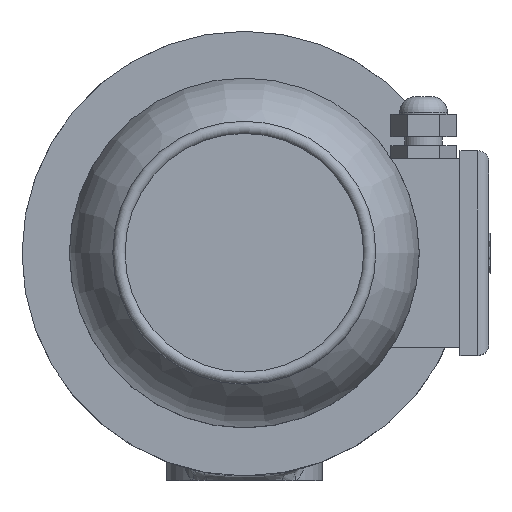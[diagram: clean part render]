
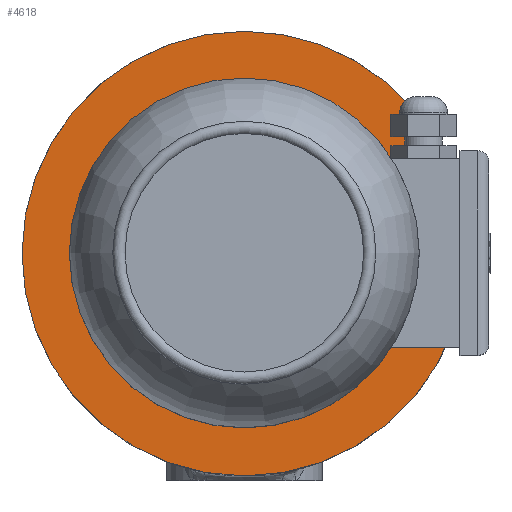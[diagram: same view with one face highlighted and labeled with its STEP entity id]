
A CAD part, top view. The second image highlights one B-rep face of the part: STEP entity #4618.
In plain terms, the highlighted planar face has unit normal (0, 0, 1).
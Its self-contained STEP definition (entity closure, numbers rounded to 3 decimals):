
#152=PLANE('',#5064);
#1482=ORIENTED_EDGE('',*,*,#2757,.F.);
#1483=ORIENTED_EDGE('',*,*,#2758,.T.);
#2757=EDGE_CURVE('',#3398,#3398,#3681,.T.);
#2758=EDGE_CURVE('',#3399,#3399,#3682,.T.);
#3398=VERTEX_POINT('',#8064);
#3399=VERTEX_POINT('',#8067);
#3681=CIRCLE('',#5063,100.);
#3682=CIRCLE('',#5065,65.993);
#3865=EDGE_LOOP('',(#1482));
#3866=EDGE_LOOP('',(#1483));
#4241=FACE_BOUND('',#3865,.T.);
#4242=FACE_BOUND('',#3866,.T.);
#4618=ADVANCED_FACE('',(#4241,#4242),#152,.T.);
#5063=AXIS2_PLACEMENT_3D('',#8063,#5771,#5772);
#5064=AXIS2_PLACEMENT_3D('',#8065,#5773,#5774);
#5065=AXIS2_PLACEMENT_3D('',#8066,#5775,#5776);
#5771=DIRECTION('',(0.,0.,-1.));
#5772=DIRECTION('',(-1.,0.,0.));
#5773=DIRECTION('',(0.,0.,1.));
#5774=DIRECTION('',(1.,0.,0.));
#5775=DIRECTION('',(0.,0.,-1.));
#5776=DIRECTION('',(-1.,0.,0.));
#8063=CARTESIAN_POINT('',(0.,0.,360.364));
#8064=CARTESIAN_POINT('',(-100.,0.,360.364));
#8065=CARTESIAN_POINT('',(-65.993,0.,360.364));
#8066=CARTESIAN_POINT('',(0.,0.,360.364));
#8067=CARTESIAN_POINT('',(-65.993,0.,360.364));
